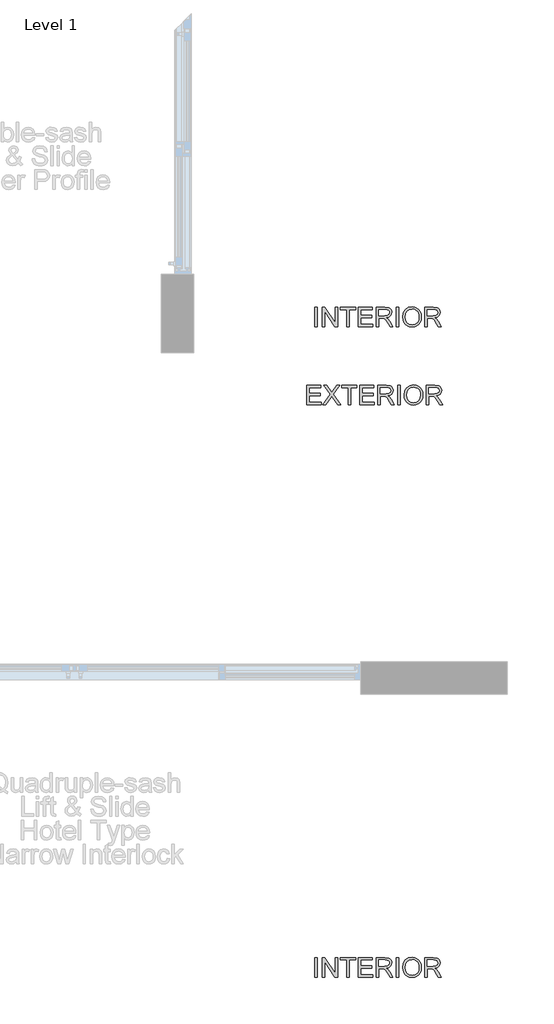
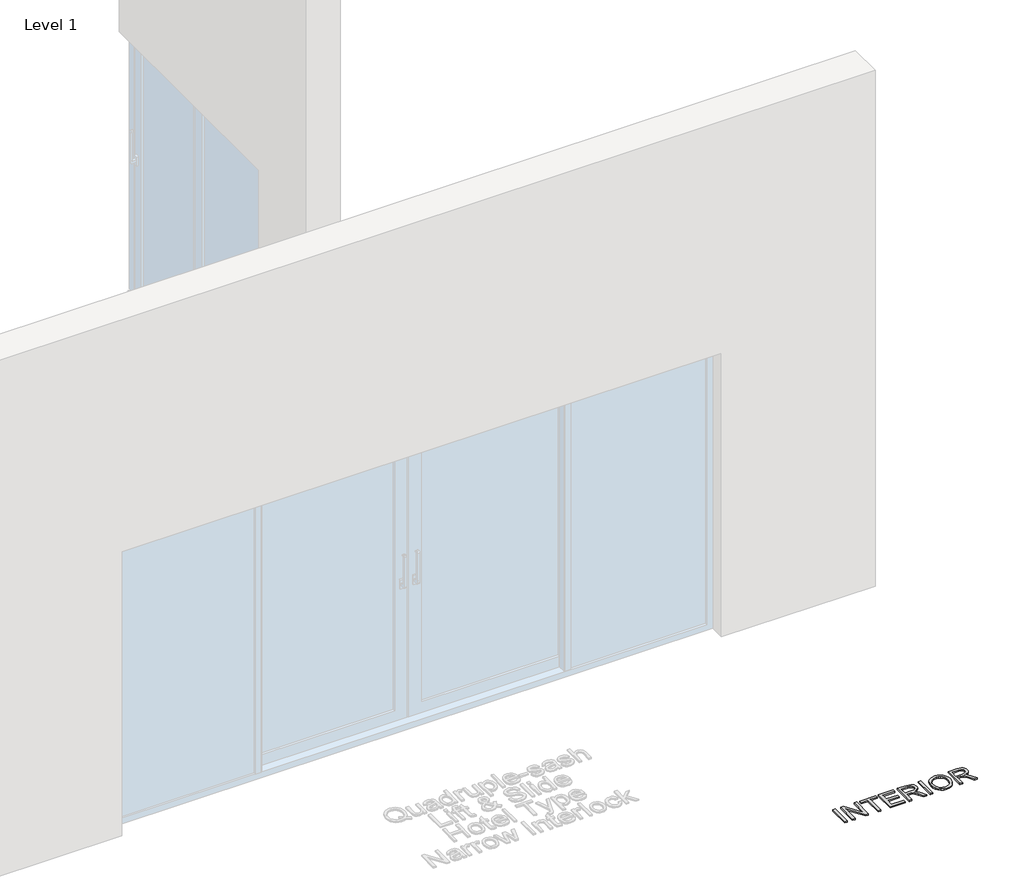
# One storey, part 16 of 17: 3 proxies.
"""IFC4 building model written with IfcOpenShell, lengths in millimetres."""

from ifc_helpers import new_model, si_unit, origin, origin_with_axes, place, context, project, spatial, polyline, outline, extrude, element, save

model = new_model("IFC4")

# Units and contexts
model_context = context("Model", 3, world=origin())
ifc_project = project(units=[si_unit("LENGTHUNIT", "METRE", prefix="MILLI")], contexts=[model_context])

# Site, building, storey
site = spatial("IfcSite", under=ifc_project)
building = spatial("IfcBuilding", under=site)
storey = spatial("IfcBuildingStorey", under=building, Name="Level 1", Elevation=0.0)

# Proxies
placement = place(None, origin())
element("IfcBuildingElementProxy", 1, Name="150mm Arial", ObjectType="150mm Arial", at=placement, inside=storey, context=model_context, shape_type="SweptSolid", body=[
    extrude(outline(polyline([(31177.951692, -2318.7131538), (31177.951692, -2168.0286886), (31196.7872501, -2168.0286886), (31196.7872501, -2318.7131538), (31177.951692, -2318.7131538)])), origin_with_axes(), (0.0, 0.0, 1.0), 10.0),
    extrude(outline(polyline([(31234.4583664, -2318.7131538), (31234.4583664, -2168.0286886), (31254.6182998, -2168.0286886), (31333.3450467, -2287.4063961), (31333.3450467, -2168.0286886), (31352.1806049, -2168.0286886), (31352.1806049, -2318.7131538), (31332.0206715, -2318.7131538), (31253.2939246, -2199.2986582), (31253.2939246, -2318.7131538), (31234.4583664, -2318.7131538)])), origin_with_axes(), (0.0, 0.0, 1.0), 10.0),
    extrude(outline(polyline([(31422.8139479, -2318.7131538), (31422.8139479, -2186.8642468), (31373.3706078, -2186.8642468), (31373.3706078, -2168.0286886), (31491.0928463, -2168.0286886), (31491.0928463, -2186.8642468), (31441.6495061, -2186.8642468), (31441.6495061, -2318.7131538), (31422.8139479, -2318.7131538)])), origin_with_axes(), (0.0, 0.0, 1.0), 10.0),
    extrude(outline(polyline([(31512.2828492, -2318.7131538), (31512.2828492, -2168.0286886), (31620.5873086, -2168.0286886), (31620.5873086, -2186.8642468), (31531.1184073, -2186.8642468), (31531.1184073, -2231.5986974), (31615.878419, -2231.5986974), (31615.878419, -2250.4342555), (31531.1184073, -2250.4342555), (31531.1184073, -2299.8775957), (31622.9417533, -2299.8775957), (31622.9417533, -2318.7131538), (31512.2828492, -2318.7131538)])), origin_with_axes(), (0.0, 0.0, 1.0), 10.0),
    extrude(outline(polyline([(31651.1950906, -2318.7131538), (31651.1950906, -2168.0286886), (31716.1262627, -2168.0286886), (31746.2741922, -2172.0937847), (31755.5540155, -2177.7223792), (31762.7553056, -2186.4779707), (31767.3768232, -2197.3350881), (31768.917329, -2209.2682603), (31766.3651477, -2224.1122988), (31758.7086036, -2236.4179515), (31745.7177707, -2245.4402575), (31727.1627226, -2250.4342555), (31737.8680886, -2258.4908712), (31753.1351914, -2277.8782524), (31778.2615317, -2318.7131538), (31756.372553, -2318.7131538), (31736.7644426, -2287.4799725), (31722.6009858, -2266.8050043), (31712.6497778, -2257.0377374), (31703.6918513, -2253.4508879), (31692.765756, -2252.7887003), (31670.0306487, -2252.7887003), (31670.0306487, -2318.7131538), (31651.1950906, -2318.7131538)]), holes=[polyline([(31670.0306487, -2233.9531422), (31712.1899254, -2233.9531422), (31733.692628, -2231.2859977), (31745.9063102, -2222.7511354), (31750.0817709, -2209.9672361), (31748.0906096, -2200.7793832), (31742.1171257, -2193.3757581), (31731.8394224, -2188.4921246), (31716.9356031, -2186.8642468), (31670.0306487, -2186.8642468), (31670.0306487, -2233.9531422)])]), origin_with_axes(), (0.0, 0.0, 1.0), 10.0),
    extrude(outline(polyline([(31804.2340005, -2318.7131538), (31804.2340005, -2168.0286886), (31823.0695587, -2168.0286886), (31823.0695587, -2318.7131538), (31804.2340005, -2318.7131538)])), origin_with_axes(), (0.0, 0.0, 1.0), 10.0),
    extrude(outline(polyline([(31853.6773407, -2245.357484), (31858.6989299, -2212.0365723), (31864.9759165, -2198.4180407), (31873.7636976, -2186.8274586), (31896.7655194, -2170.9625475), (31925.5982708, -2165.6742438), (31945.3627309, -2168.1574473), (31963.0854461, -2175.6070577), (31977.8007259, -2187.4988432), (31988.5428801, -2203.308572), (31995.1095737, -2222.2728888), (31997.2984716, -2243.6284386), (31994.9946106, -2265.269097), (31988.0830276, -2284.5001283), (31976.9454002, -2300.3374482), (31961.963406, -2311.7969723), (31944.3924422, -2318.749942), (31925.4879062, -2321.0675986), (31905.4199433, -2318.5062202), (31887.5960607, -2310.822085), (31872.917569, -2298.7095704), (31862.2857794, -2282.8630534), (31855.8294504, -2264.629902), (31853.6773407, -2245.357484)]), holes=[polyline([(31872.5128989, -2245.541425), (31876.2790908, -2269.1134638), (31887.5776666, -2287.0753023), (31904.5600192, -2298.4428559), (31925.3775416, -2302.2320405), (31946.4985666, -2298.4060677), (31963.5085104, -2286.9281495), (31974.7243127, -2268.4144881), (31978.4629135, -2243.4812858), (31976.8626268, -2226.8070344), (31972.0617667, -2212.3952572), (31964.1844935, -2200.6092378), (31953.3549673, -2191.8122596), (31940.2905579, -2186.3354164), (31925.7086354, -2184.509802), (31905.4475345, -2188.0276736), (31888.22146, -2198.5812883), (31876.4400392, -2217.3570656), (31872.5128989, -2245.541425)])]), origin_with_axes(), (0.0, 0.0, 1.0), 10.0),
    extrude(outline(polyline([(32023.1973641, -2318.7131538), (32023.1973641, -2168.0286886), (32088.1285362, -2168.0286886), (32118.2764657, -2172.0937847), (32127.5562891, -2177.7223792), (32134.7575791, -2186.4779707), (32139.3790967, -2197.3350881), (32140.9196025, -2209.2682603), (32138.3674212, -2224.1122988), (32130.7108772, -2236.4179515), (32117.7200442, -2245.4402575), (32099.1649961, -2250.4342555), (32109.8703621, -2258.4908712), (32125.1374649, -2277.8782524), (32150.2638052, -2318.7131538), (32128.3748265, -2318.7131538), (32108.7667162, -2287.4799725), (32094.6032593, -2266.8050043), (32084.6520514, -2257.0377374), (32075.6941248, -2253.4508879), (32064.7680295, -2252.7887003), (32042.0329222, -2252.7887003), (32042.0329222, -2318.7131538), (32023.1973641, -2318.7131538)]), holes=[polyline([(32042.0329222, -2233.9531422), (32084.1921989, -2233.9531422), (32105.6949015, -2231.2859977), (32117.9085837, -2222.7511354), (32122.0840444, -2209.9672361), (32120.0928831, -2200.7793832), (32114.1193992, -2193.3757581), (32103.8416959, -2188.4921246), (32088.9378766, -2186.8642468), (32042.0329222, -2186.8642468), (32042.0329222, -2233.9531422)])]), origin_with_axes(), (0.0, 0.0, 1.0), 10.0),
])
element("IfcBuildingElementProxy", 2, Name="150mm Arial", ObjectType="150mm Arial", at=placement, inside=storey, context=model_context, shape_type="SweptSolid", body=[
    extrude(outline(polyline([(31115.5972472, -2918.7131538), (31115.5972472, -2768.0286886), (31223.9017066, -2768.0286886), (31223.9017066, -2786.8642468), (31134.4328053, -2786.8642468), (31134.4328053, -2831.5986974), (31219.192817, -2831.5986974), (31219.192817, -2850.4342555), (31134.4328053, -2850.4342555), (31134.4328053, -2899.8775957), (31226.2561513, -2899.8775957), (31226.2561513, -2918.7131538), (31115.5972472, -2918.7131538)])), origin_with_axes(), (0.0, 0.0, 1.0), 10.0),
    extrude(outline(polyline([(31238.0283752, -2918.7131538), (31296.1169422, -2836.6018925), (31247.4461543, -2768.0286886), (31270.0341088, -2768.0286886), (31297.4413174, -2806.6195099), (31306.6751555, -2821.6658835), (31317.4908861, -2806.3619925), (31344.6037892, -2768.0286886), (31367.5228375, -2768.0286886), (31318.8520495, -2836.8226217), (31376.9406166, -2918.7131538), (31354.3526621, -2918.7131538), (31315.6514762, -2864.1194658), (31307.5948605, -2852.7887003), (31298.7289044, -2865.2231117), (31260.9474235, -2918.7131538), (31238.0283752, -2918.7131538)])), origin_with_axes(), (0.0, 0.0, 1.0), 10.0),
    extrude(outline(polyline([(31433.447291, -2918.7131538), (31433.447291, -2786.8642468), (31384.0039509, -2786.8642468), (31384.0039509, -2768.0286886), (31501.7261893, -2768.0286886), (31501.7261893, -2786.8642468), (31452.2828492, -2786.8642468), (31452.2828492, -2918.7131538), (31433.447291, -2918.7131538)])), origin_with_axes(), (0.0, 0.0, 1.0), 10.0),
    extrude(outline(polyline([(31522.9161922, -2918.7131538), (31522.9161922, -2768.0286886), (31631.2206516, -2768.0286886), (31631.2206516, -2786.8642468), (31541.7517504, -2786.8642468), (31541.7517504, -2831.5986974), (31626.5117621, -2831.5986974), (31626.5117621, -2850.4342555), (31541.7517504, -2850.4342555), (31541.7517504, -2899.8775957), (31633.5750964, -2899.8775957), (31633.5750964, -2918.7131538), (31522.9161922, -2918.7131538)])), origin_with_axes(), (0.0, 0.0, 1.0), 10.0),
    extrude(outline(polyline([(31661.8284336, -2918.7131538), (31661.8284336, -2768.0286886), (31726.7596058, -2768.0286886), (31756.9075353, -2772.0937847), (31766.1873586, -2777.7223792), (31773.3886487, -2786.4779707), (31778.0101662, -2797.3350881), (31779.5506721, -2809.2682603), (31776.9984907, -2824.1122988), (31769.3419467, -2836.4179515), (31756.3511138, -2845.4402575), (31737.7960656, -2850.4342555), (31748.5014317, -2858.4908712), (31763.7685345, -2877.8782524), (31788.8948748, -2918.7131538), (31767.005896, -2918.7131538), (31747.3977857, -2887.4799725), (31733.2343289, -2866.8050043), (31723.2831209, -2857.0377374), (31714.3251943, -2853.4508879), (31703.3990991, -2852.7887003), (31680.6639918, -2852.7887003), (31680.6639918, -2918.7131538), (31661.8284336, -2918.7131538)]), holes=[polyline([(31680.6639918, -2833.9531422), (31722.8232684, -2833.9531422), (31744.325971, -2831.2859977), (31756.5396533, -2822.7511354), (31760.7151139, -2809.9672361), (31758.7239526, -2800.7793832), (31752.7504687, -2793.3757581), (31742.4727655, -2788.4921246), (31727.5689462, -2786.8642468), (31680.6639918, -2786.8642468), (31680.6639918, -2833.9531422)])]), origin_with_axes(), (0.0, 0.0, 1.0), 10.0),
    extrude(outline(polyline([(31814.8673436, -2918.7131538), (31814.8673436, -2768.0286886), (31833.7029018, -2768.0286886), (31833.7029018, -2918.7131538), (31814.8673436, -2918.7131538)])), origin_with_axes(), (0.0, 0.0, 1.0), 10.0),
    extrude(outline(polyline([(31864.3106838, -2845.357484), (31869.332273, -2812.0365723), (31875.6092595, -2798.4180407), (31884.3970407, -2786.8274586), (31907.3988625, -2770.9625475), (31936.2316138, -2765.6742438), (31955.996074, -2768.1574473), (31973.7187891, -2775.6070577), (31988.4340689, -2787.4988432), (31999.1762232, -2803.308572), (32005.7429168, -2822.2728888), (32007.9318147, -2843.6284386), (32005.6279537, -2865.269097), (31998.7163707, -2884.5001283), (31987.5787433, -2900.3374482), (31972.5967491, -2911.7969723), (31955.0257853, -2918.749942), (31936.1212492, -2921.0675986), (31916.0532864, -2918.5062202), (31898.2294037, -2910.822085), (31883.5509121, -2898.7095704), (31872.9191225, -2882.8630534), (31866.4627934, -2864.629902), (31864.3106838, -2845.357484)]), holes=[polyline([(31883.1462419, -2845.541425), (31886.9124339, -2869.1134638), (31898.2110096, -2887.0753023), (31915.1933622, -2898.4428559), (31936.0108846, -2902.2320405), (31957.1319097, -2898.4060677), (31974.1418534, -2886.9281495), (31985.3576558, -2868.4144881), (31989.0962565, -2843.4812858), (31987.4959699, -2826.8070344), (31982.6951098, -2812.3952572), (31974.8178366, -2800.6092378), (31963.9883104, -2791.8122596), (31950.923901, -2786.3354164), (31936.3419784, -2784.509802), (31916.0808775, -2788.0276736), (31898.8548031, -2798.5812883), (31887.0733822, -2817.3570656), (31883.1462419, -2845.541425)])]), origin_with_axes(), (0.0, 0.0, 1.0), 10.0),
    extrude(outline(polyline([(32033.8307072, -2918.7131538), (32033.8307072, -2768.0286886), (32098.7618793, -2768.0286886), (32128.9098088, -2772.0937847), (32138.1896321, -2777.7223792), (32145.3909222, -2786.4779707), (32150.0124398, -2797.3350881), (32151.5529456, -2809.2682603), (32149.0007643, -2824.1122988), (32141.3442202, -2836.4179515), (32128.3533873, -2845.4402575), (32109.7983392, -2850.4342555), (32120.5037052, -2858.4908712), (32135.770808, -2877.8782524), (32160.8971483, -2918.7131538), (32139.0081696, -2918.7131538), (32119.4000592, -2887.4799725), (32105.2366024, -2866.8050043), (32095.2853944, -2857.0377374), (32086.3274679, -2853.4508879), (32075.4013726, -2852.7887003), (32052.6662653, -2852.7887003), (32052.6662653, -2918.7131538), (32033.8307072, -2918.7131538)]), holes=[polyline([(32052.6662653, -2833.9531422), (32094.825542, -2833.9531422), (32116.3282446, -2831.2859977), (32128.5419268, -2822.7511354), (32132.7173875, -2809.9672361), (32130.7262262, -2800.7793832), (32124.7527423, -2793.3757581), (32114.475039, -2788.4921246), (32099.5712197, -2786.8642468), (32052.6662653, -2786.8642468), (32052.6662653, -2833.9531422)])]), origin_with_axes(), (0.0, 0.0, 1.0), 10.0),
])
element("IfcBuildingElementProxy", 3, Name="150mm Arial", ObjectType="150mm Arial", at=placement, inside=storey, context=model_context, shape_type="SweptSolid", body=[
    extrude(outline(polyline([(31177.951692, -7318.7131538), (31177.951692, -7168.0286886), (31196.7872501, -7168.0286886), (31196.7872501, -7318.7131538), (31177.951692, -7318.7131538)])), origin_with_axes(), (0.0, 0.0, 1.0), 10.0),
    extrude(outline(polyline([(31234.4583664, -7318.7131538), (31234.4583664, -7168.0286886), (31254.6182998, -7168.0286886), (31333.3450467, -7287.4063961), (31333.3450467, -7168.0286886), (31352.1806049, -7168.0286886), (31352.1806049, -7318.7131538), (31332.0206715, -7318.7131538), (31253.2939246, -7199.2986582), (31253.2939246, -7318.7131538), (31234.4583664, -7318.7131538)])), origin_with_axes(), (0.0, 0.0, 1.0), 10.0),
    extrude(outline(polyline([(31422.8139479, -7318.7131538), (31422.8139479, -7186.8642468), (31373.3706078, -7186.8642468), (31373.3706078, -7168.0286886), (31491.0928463, -7168.0286886), (31491.0928463, -7186.8642468), (31441.6495061, -7186.8642468), (31441.6495061, -7318.7131538), (31422.8139479, -7318.7131538)])), origin_with_axes(), (0.0, 0.0, 1.0), 10.0),
    extrude(outline(polyline([(31512.2828492, -7318.7131538), (31512.2828492, -7168.0286886), (31620.5873086, -7168.0286886), (31620.5873086, -7186.8642468), (31531.1184073, -7186.8642468), (31531.1184073, -7231.5986974), (31615.878419, -7231.5986974), (31615.878419, -7250.4342555), (31531.1184073, -7250.4342555), (31531.1184073, -7299.8775957), (31622.9417533, -7299.8775957), (31622.9417533, -7318.7131538), (31512.2828492, -7318.7131538)])), origin_with_axes(), (0.0, 0.0, 1.0), 10.0),
    extrude(outline(polyline([(31651.1950906, -7318.7131538), (31651.1950906, -7168.0286886), (31716.1262627, -7168.0286886), (31746.2741922, -7172.0937847), (31755.5540155, -7177.7223792), (31762.7553056, -7186.4779707), (31767.3768232, -7197.3350881), (31768.917329, -7209.2682603), (31766.3651477, -7224.1122988), (31758.7086036, -7236.4179515), (31745.7177707, -7245.4402575), (31727.1627226, -7250.4342555), (31737.8680886, -7258.4908712), (31753.1351914, -7277.8782524), (31778.2615317, -7318.7131538), (31756.372553, -7318.7131538), (31736.7644426, -7287.4799725), (31722.6009858, -7266.8050043), (31712.6497778, -7257.0377374), (31703.6918513, -7253.4508879), (31692.765756, -7252.7887003), (31670.0306487, -7252.7887003), (31670.0306487, -7318.7131538), (31651.1950906, -7318.7131538)]), holes=[polyline([(31670.0306487, -7233.9531422), (31712.1899254, -7233.9531422), (31733.692628, -7231.2859977), (31745.9063102, -7222.7511354), (31750.0817709, -7209.9672361), (31748.0906096, -7200.7793832), (31742.1171257, -7193.3757581), (31731.8394224, -7188.4921246), (31716.9356031, -7186.8642468), (31670.0306487, -7186.8642468), (31670.0306487, -7233.9531422)])]), origin_with_axes(), (0.0, 0.0, 1.0), 10.0),
    extrude(outline(polyline([(31804.2340005, -7318.7131538), (31804.2340005, -7168.0286886), (31823.0695587, -7168.0286886), (31823.0695587, -7318.7131538), (31804.2340005, -7318.7131538)])), origin_with_axes(), (0.0, 0.0, 1.0), 10.0),
    extrude(outline(polyline([(31853.6773407, -7245.357484), (31858.6989299, -7212.0365723), (31864.9759165, -7198.4180407), (31873.7636976, -7186.8274586), (31896.7655194, -7170.9625475), (31925.5982708, -7165.6742438), (31945.3627309, -7168.1574473), (31963.0854461, -7175.6070577), (31977.8007259, -7187.4988432), (31988.5428801, -7203.308572), (31995.1095737, -7222.2728888), (31997.2984716, -7243.6284386), (31994.9946106, -7265.269097), (31988.0830276, -7284.5001283), (31976.9454002, -7300.3374482), (31961.963406, -7311.7969723), (31944.3924422, -7318.749942), (31925.4879062, -7321.0675986), (31905.4199433, -7318.5062202), (31887.5960607, -7310.822085), (31872.917569, -7298.7095704), (31862.2857794, -7282.8630534), (31855.8294504, -7264.629902), (31853.6773407, -7245.357484)]), holes=[polyline([(31872.5128989, -7245.541425), (31876.2790908, -7269.1134638), (31887.5776666, -7287.0753023), (31904.5600192, -7298.4428559), (31925.3775416, -7302.2320405), (31946.4985666, -7298.4060677), (31963.5085104, -7286.9281495), (31974.7243127, -7268.4144881), (31978.4629135, -7243.4812858), (31976.8626268, -7226.8070344), (31972.0617667, -7212.3952572), (31964.1844935, -7200.6092378), (31953.3549673, -7191.8122596), (31940.2905579, -7186.3354164), (31925.7086354, -7184.509802), (31905.4475345, -7188.0276736), (31888.22146, -7198.5812883), (31876.4400392, -7217.3570656), (31872.5128989, -7245.541425)])]), origin_with_axes(), (0.0, 0.0, 1.0), 10.0),
    extrude(outline(polyline([(32023.1973641, -7318.7131538), (32023.1973641, -7168.0286886), (32088.1285362, -7168.0286886), (32118.2764657, -7172.0937847), (32127.5562891, -7177.7223792), (32134.7575791, -7186.4779707), (32139.3790967, -7197.3350881), (32140.9196025, -7209.2682603), (32138.3674212, -7224.1122988), (32130.7108772, -7236.4179515), (32117.7200442, -7245.4402575), (32099.1649961, -7250.4342555), (32109.8703621, -7258.4908712), (32125.1374649, -7277.8782524), (32150.2638052, -7318.7131538), (32128.3748265, -7318.7131538), (32108.7667162, -7287.4799725), (32094.6032593, -7266.8050043), (32084.6520514, -7257.0377374), (32075.6941248, -7253.4508879), (32064.7680295, -7252.7887003), (32042.0329222, -7252.7887003), (32042.0329222, -7318.7131538), (32023.1973641, -7318.7131538)]), holes=[polyline([(32042.0329222, -7233.9531422), (32084.1921989, -7233.9531422), (32105.6949015, -7231.2859977), (32117.9085837, -7222.7511354), (32122.0840444, -7209.9672361), (32120.0928831, -7200.7793832), (32114.1193992, -7193.3757581), (32103.8416959, -7188.4921246), (32088.9378766, -7186.8642468), (32042.0329222, -7186.8642468), (32042.0329222, -7233.9531422)])]), origin_with_axes(), (0.0, 0.0, 1.0), 10.0),
])

save(model, "model.ifc")
